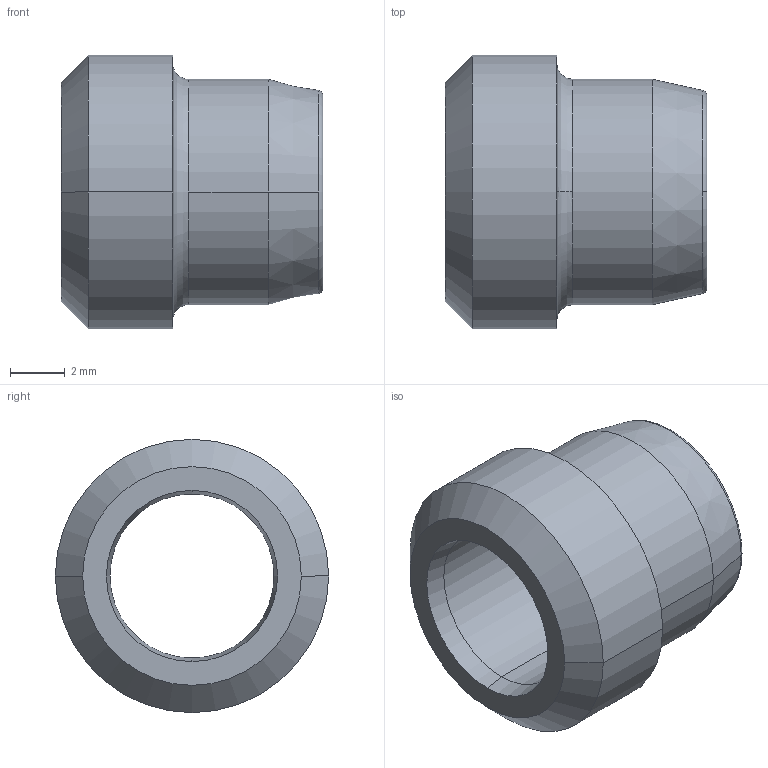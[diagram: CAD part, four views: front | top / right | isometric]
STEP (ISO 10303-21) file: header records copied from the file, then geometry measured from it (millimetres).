
FILE_DESCRIPTION((''),'2;1');
FILE_NAME('100104.stp','2006-03-06T15:07:51',('Dario Falcomer'),('CAST S.p.A.'),'AutoCAD STEP 2000i','AutoCAD 2000i',', , ');
FILE_SCHEMA(('CONFIG_CONTROL_DESIGN'));
Length unit declared in the file: millimetre
Products named in the file (2): 100104.0; 1001ESTERNO#0
Assembly tree (1 placements, depth 2):
  100104.0
    1001ESTERNO#0
Bounding box: 9.57 x 10 x 10 mm (x, y, z)
Volume: 303.5 mm3; surface area: 521.4 mm2
Topology: 1 solids, 1 shells, 28 faces, 67 edges, 43 vertices
Faces by surface type: bspline 8, cone 8, cylinder 6, plane 4, torus 2
Entity records: 1241 total; most frequent: CARTESIAN_POINT 456, DIRECTION 164, ORIENTED_EDGE 134, AXIS2_PLACEMENT_3D 75, EDGE_CURVE 67, CIRCLE 53, VERTEX_POINT 43, EDGE_LOOP 32
